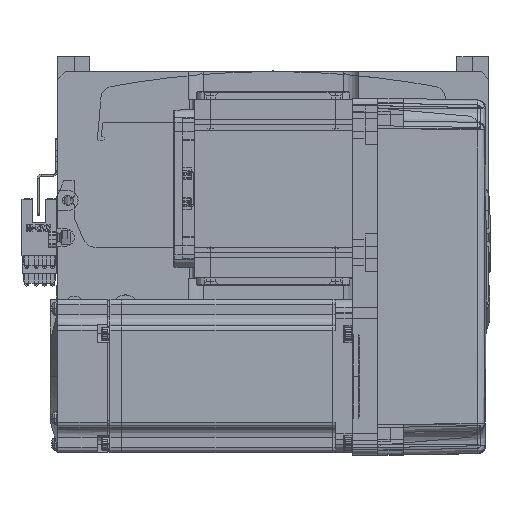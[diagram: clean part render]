
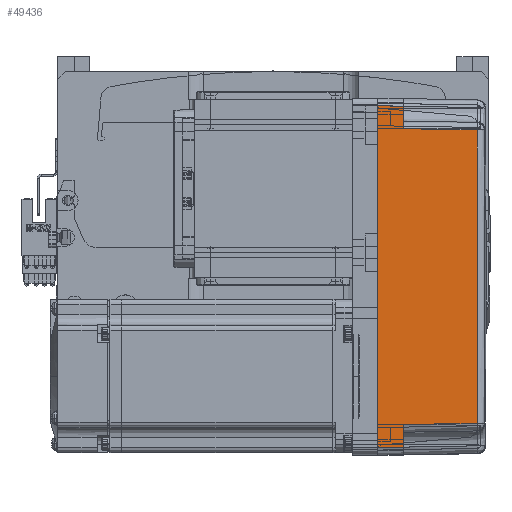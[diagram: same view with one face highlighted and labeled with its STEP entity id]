
A CAD part, top view. The second image highlights one B-rep face of the part: STEP entity #49436.
In plain terms, the highlighted planar face has unit normal (0.018, 0, 1) as drawn and (0, 1, 0.017) by its records, which use the part's own axes.
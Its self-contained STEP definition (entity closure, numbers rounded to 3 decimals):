
#3523 = ORIENTED_EDGE ( 'NONE', *, *, #73782, .T. ) ;
#4642 = VECTOR ( 'NONE', #34052, 1000. ) ;
#5619 = LINE ( 'NONE', #62538, #12960 ) ;
#6007 = AXIS2_PLACEMENT_3D ( 'NONE', #50073, #49820, #15187 ) ;
#6068 = EDGE_LOOP ( 'NONE', ( #27535, #3523, #19949, #25168, #20472, #33688, #57218, #65862 ) ) ;
#8301 = LINE ( 'NONE', #18026, #61216 ) ;
#8713 = VERTEX_POINT ( 'NONE', #32122 ) ;
#10210 = VECTOR ( 'NONE', #39658, 1000. ) ;
#10507 = B_SPLINE_CURVE_WITH_KNOTS ( 'NONE', 3,
 ( #66723, #37612, #55165, #39144 ),
 .UNSPECIFIED., .F., .F.,
 ( 4, 4 ),
 ( 0., 1. ),
 .UNSPECIFIED. ) ;
#10581 = EDGE_CURVE ( 'NONE', #8713, #54602, #50290, .T. ) ;
#11234 = EDGE_CURVE ( 'NONE', #44010, #47950, #5619, .T. ) ;
#11495 = EDGE_CURVE ( 'NONE', #47950, #13448, #8301, .T. ) ;
#12220 = DIRECTION ( 'NONE',  ( 0.017, -0.017, 1. ) ) ;
#12960 = VECTOR ( 'NONE', #68405, 1000. ) ;
#13448 = VERTEX_POINT ( 'NONE', #32065 ) ;
#14712 = CARTESIAN_POINT ( 'NONE',  ( 67.001, 36.001, -0.052 ) ) ;
#15187 = DIRECTION ( 'NONE',  ( 0., -0.017, 1. ) ) ;
#16142 = CARTESIAN_POINT ( 'NONE',  ( -57.495, 35.32, 38.985 ) ) ;
#17229 = CARTESIAN_POINT ( 'NONE',  ( 70., 35.825, 10. ) ) ;
#18026 = CARTESIAN_POINT ( 'NONE',  ( 70., 35.825, 10. ) ) ;
#19380 = LINE ( 'NONE', #53223, #54020 ) ;
#19949 = ORIENTED_EDGE ( 'NONE', *, *, #65024, .T. ) ;
#20356 = CARTESIAN_POINT ( 'NONE',  ( 67., 36., 0. ) ) ;
#20472 = ORIENTED_EDGE ( 'NONE', *, *, #11234, .T. ) ;
#21589 = CARTESIAN_POINT ( 'NONE',  ( -66.826, 35.825, 10. ) ) ;
#21983 = LINE ( 'NONE', #14712, #4642 ) ;
#22071 = CARTESIAN_POINT ( 'NONE',  ( 0., 36., 0. ) ) ;
#23858 = VERTEX_POINT ( 'NONE', #16142 ) ;
#23867 = DIRECTION ( 'NONE',  ( 1., 0., 0. ) ) ;
#25168 = ORIENTED_EDGE ( 'NONE', *, *, #45751, .T. ) ;
#27535 = ORIENTED_EDGE ( 'NONE', *, *, #43356, .T. ) ;
#31672 = CARTESIAN_POINT ( 'NONE',  ( 58., 35.825, 10. ) ) ;
#32065 = CARTESIAN_POINT ( 'NONE',  ( 66.826, 35.825, 10. ) ) ;
#32122 = CARTESIAN_POINT ( 'NONE',  ( -67., 36., 0. ) ) ;
#33688 = ORIENTED_EDGE ( 'NONE', *, *, #11495, .T. ) ;
#34052 = DIRECTION ( 'NONE',  ( -0.017, -0.017, 1. ) ) ;
#34634 = VERTEX_POINT ( 'NONE', #36226 ) ;
#34933 = CARTESIAN_POINT ( 'NONE',  ( 57.495, 35.32, 38.985 ) ) ;
#35056 = DIRECTION ( 'NONE',  ( 1., 0., 0. ) ) ;
#35596 = EDGE_CURVE ( 'NONE', #54602, #13448, #21983, .T. ) ;
#36226 = CARTESIAN_POINT ( 'NONE',  ( -58., 35.825, 10. ) ) ;
#37612 = CARTESIAN_POINT ( 'NONE',  ( -19.165, 35.316, 39.181 ) ) ;
#38379 = CARTESIAN_POINT ( 'NONE',  ( -67., 36., 0. ) ) ;
#38884 = DIRECTION ( 'NONE',  ( 0.017, -0.017, 1. ) ) ;
#39144 = CARTESIAN_POINT ( 'NONE',  ( 57.495, 35.32, 38.985 ) ) ;
#39658 = DIRECTION ( 'NONE',  ( 1., 0., 0. ) ) ;
#43356 = EDGE_CURVE ( 'NONE', #8713, #75233, #44392, .T. ) ;
#44010 = VERTEX_POINT ( 'NONE', #34933 ) ;
#44392 = LINE ( 'NONE', #38379, #67265 ) ;
#45751 = EDGE_CURVE ( 'NONE', #23858, #44010, #10507, .T. ) ;
#46719 = LINE ( 'NONE', #17229, #73251 ) ;
#47950 = VERTEX_POINT ( 'NONE', #31672 ) ;
#49436 = ADVANCED_FACE ( 'NONE', ( #67793 ), #73845, .T. ) ;
#49820 = DIRECTION ( 'NONE',  ( 0., 1., 0.017 ) ) ;
#50073 = CARTESIAN_POINT ( 'NONE',  ( 70., 36., 0. ) ) ;
#50290 = LINE ( 'NONE', #22071, #10210 ) ;
#53223 = CARTESIAN_POINT ( 'NONE',  ( -58., 35.825, 10. ) ) ;
#54020 = VECTOR ( 'NONE', #12220, 1000. ) ;
#54602 = VERTEX_POINT ( 'NONE', #20356 ) ;
#55165 = CARTESIAN_POINT ( 'NONE',  ( 19.165, 35.316, 39.181 ) ) ;
#57218 = ORIENTED_EDGE ( 'NONE', *, *, #35596, .F. ) ;
#61216 = VECTOR ( 'NONE', #23867, 1000. ) ;
#62538 = CARTESIAN_POINT ( 'NONE',  ( 57.495, 35.32, 38.985 ) ) ;
#65024 = EDGE_CURVE ( 'NONE', #34634, #23858, #19380, .T. ) ;
#65862 = ORIENTED_EDGE ( 'NONE', *, *, #10581, .F. ) ;
#66723 = CARTESIAN_POINT ( 'NONE',  ( -57.495, 35.32, 38.985 ) ) ;
#67265 = VECTOR ( 'NONE', #38884, 1000. ) ;
#67793 = FACE_OUTER_BOUND ( 'NONE', #6068, .T. ) ;
#68405 = DIRECTION ( 'NONE',  ( 0.017, 0.017, -1. ) ) ;
#73251 = VECTOR ( 'NONE', #35056, 1000. ) ;
#73782 = EDGE_CURVE ( 'NONE', #75233, #34634, #46719, .T. ) ;
#73845 = PLANE ( 'NONE',  #6007 ) ;
#75233 = VERTEX_POINT ( 'NONE', #21589 ) ;
